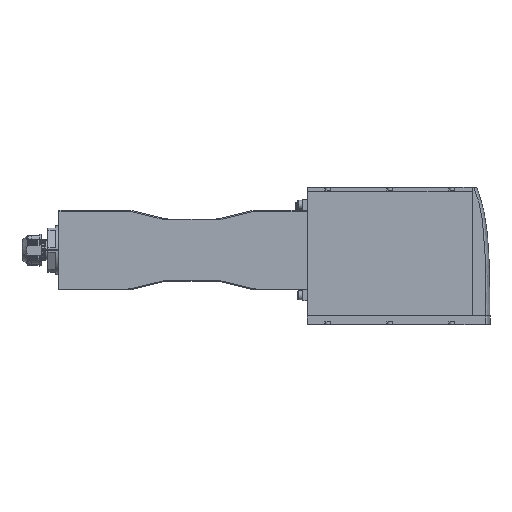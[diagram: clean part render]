
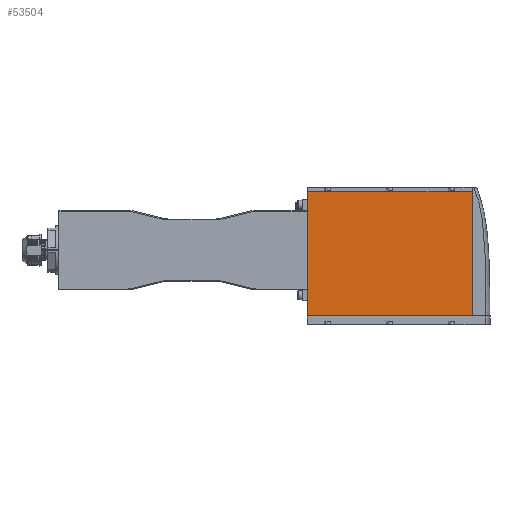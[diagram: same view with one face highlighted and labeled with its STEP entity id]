
A CAD part, left-side view. The second image highlights one B-rep face of the part: STEP entity #53504.
In plain terms, the highlighted planar face has unit normal (-1, 0, 0).
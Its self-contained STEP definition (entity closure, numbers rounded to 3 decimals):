
#4582=LINE('',#114570,#9969);
#4583=LINE('',#114572,#9970);
#4584=LINE('',#114574,#9971);
#4585=LINE('',#114575,#9972);
#9969=VECTOR('',#71804,1000.);
#9970=VECTOR('',#71805,1000.);
#9971=VECTOR('',#71806,1000.);
#9972=VECTOR('',#71807,1000.);
#12668=PLANE('',#61129);
#16544=FACE_OUTER_BOUND('',#18701,.T.);
#18701=EDGE_LOOP('',(#48593,#48594,#48595,#48596));
#29435=VERTEX_POINT('',#114568);
#29436=VERTEX_POINT('',#114569);
#29437=VERTEX_POINT('',#114571);
#29438=VERTEX_POINT('',#114573);
#38904=EDGE_CURVE('',#29435,#29436,#4582,.T.);
#38905=EDGE_CURVE('',#29437,#29436,#4583,.T.);
#38906=EDGE_CURVE('',#29437,#29438,#4584,.T.);
#38907=EDGE_CURVE('',#29438,#29435,#4585,.T.);
#48593=ORIENTED_EDGE('',*,*,#38904,.T.);
#48594=ORIENTED_EDGE('',*,*,#38905,.F.);
#48595=ORIENTED_EDGE('',*,*,#38906,.T.);
#48596=ORIENTED_EDGE('',*,*,#38907,.T.);
#53504=ADVANCED_FACE('',(#16544),#12668,.F.);
#61129=AXIS2_PLACEMENT_3D('',#114567,#71802,#71803);
#71802=DIRECTION('center_axis',(1.,0.,0.));
#71803=DIRECTION('ref_axis',(0.,1.,0.));
#71804=DIRECTION('',(0.,-1.,0.));
#71805=DIRECTION('',(0.,0.,-1.));
#71806=DIRECTION('',(0.,1.,0.));
#71807=DIRECTION('',(0.,0.,-1.));
#114567=CARTESIAN_POINT('Origin',(50.573,-104.865,97.883));
#114568=CARTESIAN_POINT('',(50.573,-11.865,27.883));
#114569=CARTESIAN_POINT('',(50.573,-197.865,27.883));
#114570=CARTESIAN_POINT('',(50.573,-19.865,27.883));
#114571=CARTESIAN_POINT('',(50.573,-197.865,167.883));
#114572=CARTESIAN_POINT('',(50.573,-197.865,167.883));
#114573=CARTESIAN_POINT('',(50.573,-11.865,167.883));
#114574=CARTESIAN_POINT('',(50.573,-19.865,167.883));
#114575=CARTESIAN_POINT('',(50.573,-11.865,167.883));
